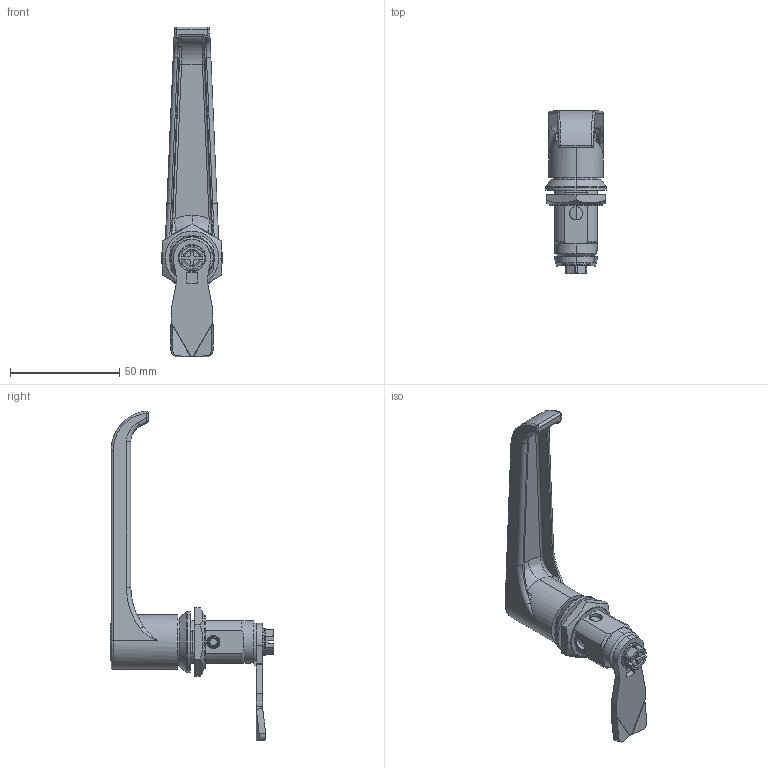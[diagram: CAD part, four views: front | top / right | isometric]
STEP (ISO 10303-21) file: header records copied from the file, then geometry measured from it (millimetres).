
FILE_DESCRIPTION (( 'STEP AP214' ), '1' );
FILE_NAME ('2.L30.001-002-003-004.STEP', '2016-09-08T10:45:04', ( '' ), ( '' ), 'SwSTEP 2.0', 'SolidWorks 2015', '' );
FILE_SCHEMA (( 'AUTOMOTIVE_DESIGN' ));
Length unit declared in the file: millimetre
Products named in the file (13): 2.A001.007; DIN 6921_M6x20; 1C.J-1XX.GH.L_#3, 1.65.18.45; 2.NKR_M22 - A1; 2.K.PM30.001_A; DIN 3771_16,36x2.4; DIN 914_M2,5 x 4; 2.PM18.001.02; 2.L18.001.05; 2.L18.001.03; Wk³adka 1333_1333 IP; 2.L18.001.02_A; 2.L30.001-002-003-004
Assembly tree (12 placements, depth 2):
  2.L30.001-002-003-004
    2.L18.001.02_A
    Wk³adka 1333_1333 IP
    2.L18.001.03
    2.L18.001.05
    2.PM18.001.02
    DIN 914_M2,5 x 4
    DIN 3771_16,36x2.4
    2.K.PM30.001_A
    2.NKR_M22 - A1
    1C.J-1XX.GH.L_#3, 1.65.18.45
    DIN 6921_M6x20
    2.A001.007
Bounding box: 28 x 74.8 x 150.65 mm (x, y, z)
Volume: 38643 mm3; surface area: 27229.7 mm2
Topology: 12 solids, 12 shells, 545 faces, 1373 edges, 874 vertices
Faces by surface type: plane 278, cylinder 166, cone 57, bspline 31, torus 13
Entity records: 20069 total; most frequent: CARTESIAN_POINT 5473, ORIENTED_EDGE 2734, DIRECTION 2596, EDGE_CURVE 1367, AXIS2_PLACEMENT_3D 968, VERTEX_POINT 874, VECTOR 660, LINE 660
